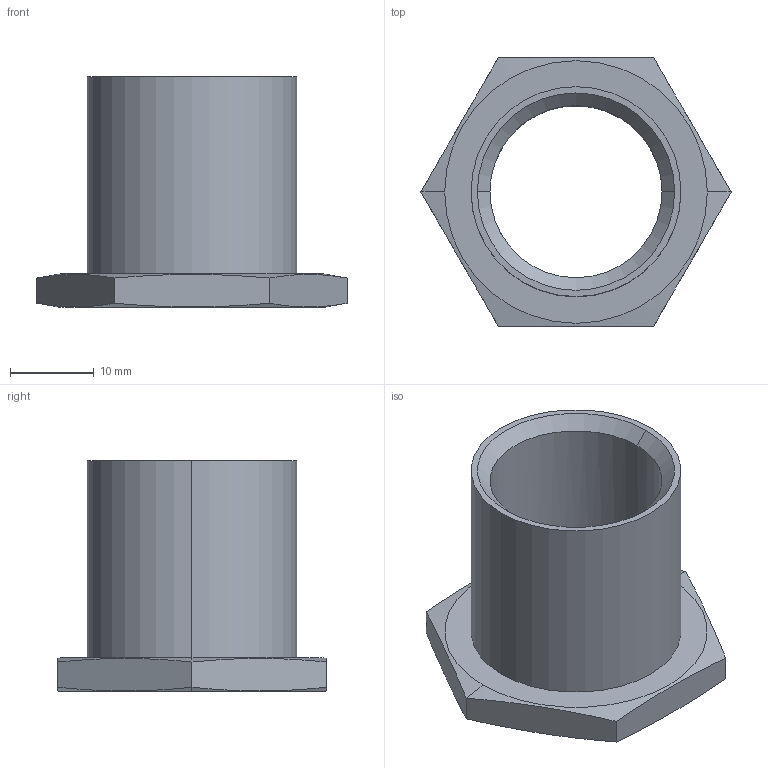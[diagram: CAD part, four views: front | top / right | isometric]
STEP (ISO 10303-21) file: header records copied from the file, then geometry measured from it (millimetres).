
FILE_DESCRIPTION (( 'STEP AP214' ), '1' );
FILE_NAME ('2.TD.003.STEP', '2024-07-11T15:04:36', ( '' ), ( '' ), 'SwSTEP 2.0', 'SolidWorks 2021', '' );
FILE_SCHEMA (( 'AUTOMOTIVE_DESIGN' ));
Length unit declared in the file: millimetre
Products named in the file (1): 2.TD.003
Bounding box: 36.95 x 32 x 27.5 mm (x, y, z)
Volume: 5669.3 mm3; surface area: 5298.7 mm2
Topology: 1 solids, 1 shells, 32 faces, 91 edges, 62 vertices
Faces by surface type: cylinder 11, plane 10, cone 8, bspline 3
Entity records: 2003 total; most frequent: CARTESIAN_POINT 1145, ORIENTED_EDGE 182, DIRECTION 116, EDGE_CURVE 91, VERTEX_POINT 62, AXIS2_PLACEMENT_3D 45, EDGE_LOOP 35, ADVANCED_FACE 32
